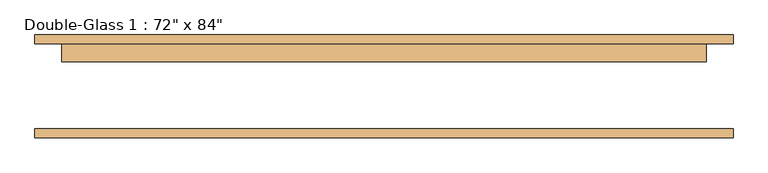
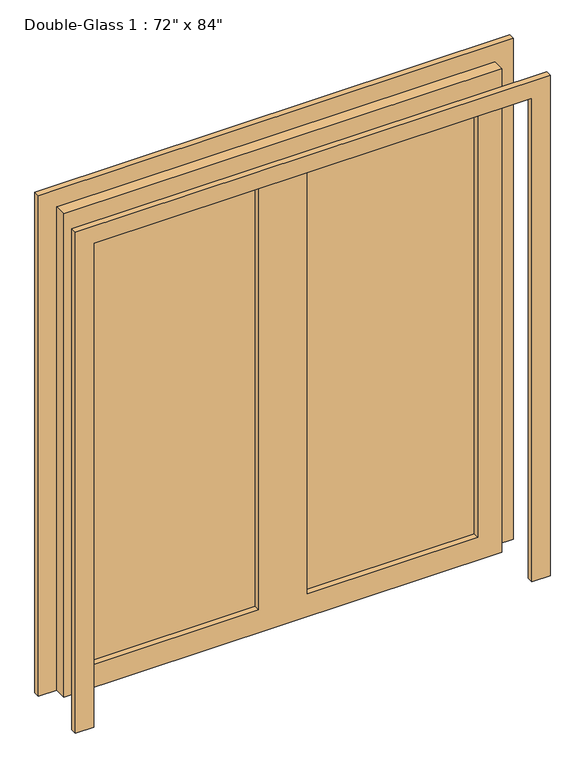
"""IFC4 building model written with IfcOpenShell, lengths in millimetres: door geometry."""

from ifc_helpers import new_model, si_unit, frame, origin, place, context, project, spatial, polyline, outline, extrude, source, transform, mapped, element, save


def door_a1a3006e(model_context):
    return source(origin(), model_context, "Body", "SweptSolid", [
        extrude(outline(polyline([(0.0, 990.6), (2209.8, 990.6), (2209.8, -990.6), (0.0, -990.6), (0.0, -914.4), (2133.6, -914.4), (2133.6, 914.4), (0.0, 914.4), (0.0, 990.6)])), frame((0.0, -143.66875, 0.0), z_axis=(0.0, 1.0, 0.0), x_axis=(0.0, 0.0, 1.0)), (0.0, 0.0, 1.0), 25.4),
        extrude(outline(polyline([(2133.6, 914.4), (0.0, 914.4), (0.0, 990.6), (2209.8, 990.6), (2209.8, -990.6), (0.0, -990.6), (0.0, -914.4), (2133.6, -914.4), (2133.6, 914.4)])), frame((0.0, 123.03125, 0.0), z_axis=(0.0, 1.0, 0.0), x_axis=(0.0, 0.0, 1.0)), (0.0, 0.0, 1.0), 25.4),
        extrude(outline(polyline([(812.8, 97.63125), (101.6, 97.63125), (101.6, 104.775), (812.8, 104.775), (812.8, 97.63125)])), frame((0.0, 0.0, 101.6), z_axis=(0.0, 0.0, 1.0), x_axis=(1.0, 0.0, 0.0)), (0.0, 0.0, 1.0), 1930.4),
        extrude(outline(polyline([(-101.6, 97.63125), (-812.8, 97.63125), (-812.8, 104.775), (-101.6, 104.775), (-101.6, 97.63125)])), frame((0.0, 0.0, 101.6), z_axis=(0.0, 0.0, 1.0), x_axis=(1.0, 0.0, 0.0)), (0.0, 0.0, 1.0), 1930.4),
        extrude(outline(polyline([(2133.6, 914.4), (2133.6, -914.4), (0.0, -914.4), (0.0, 914.4), (2133.6, 914.4)]), holes=[polyline([(2032.0, -101.6), (101.6, -101.6), (101.6, -812.8), (2032.0, -812.8), (2032.0, -101.6)]), polyline([(2032.0, 812.8), (101.6, 812.8), (101.6, 101.6), (2032.0, 101.6), (2032.0, 812.8)])]), frame((0.0, 72.23125, 0.0), z_axis=(0.0, 1.0, 0.0), x_axis=(0.0, 0.0, 1.0)), (0.0, 0.0, 1.0), 50.8),
    ])


if __name__ == "__main__":
    model = new_model("IFC4")
    model_context = context("Model", 3, world=origin())
    ifc_project = project(units=[si_unit("LENGTHUNIT", "METRE", prefix="MILLI")], contexts=[model_context])
    site = spatial("IfcSite", under=ifc_project)
    building = spatial("IfcBuilding", under=site)
    placement = place(None, origin())
    door_shape = door_a1a3006e(model_context)
    element("IfcDoor", 1, ObjectType="Double-Glass 1 : 72\" x 84\"", at=placement, inside=building, context=model_context, shape_type="MappedRepresentation", body=[
        mapped(door_shape, transform((0.0, 0.0, 0.0), x_axis=(1.0, 0.0, 0.0), y_axis=(0.0, 1.0, 0.0), z_axis=(0.0, 0.0, 1.0))),
    ])
    save(model, "model.ifc")
